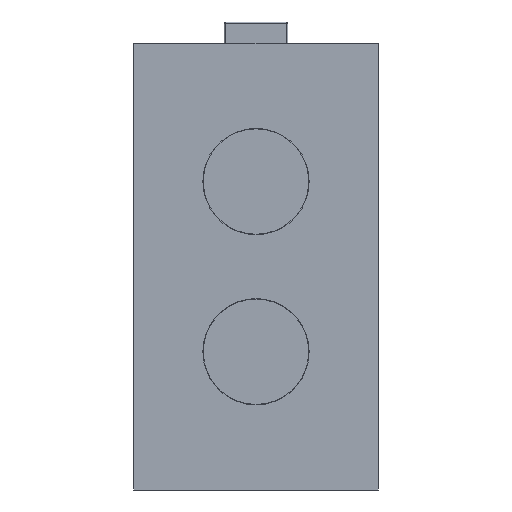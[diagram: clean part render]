
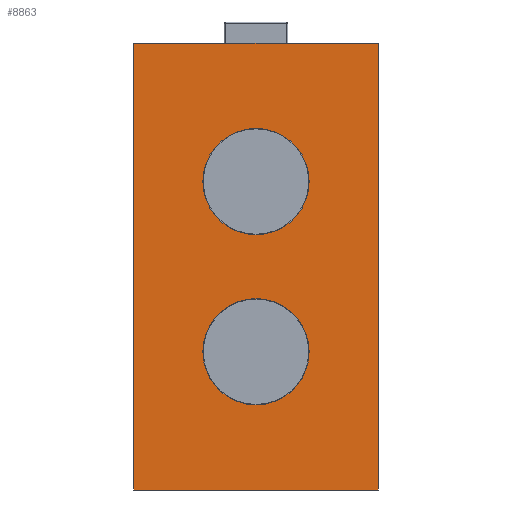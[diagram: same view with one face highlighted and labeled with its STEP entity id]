
A CAD part, front view. The second image highlights one B-rep face of the part: STEP entity #8863.
In plain terms, the highlighted planar face has unit normal (0, -1, 0).
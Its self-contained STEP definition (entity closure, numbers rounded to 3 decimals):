
#2432=DIRECTION('',(0.,0.,1.));
#2433=VECTOR('',#2432,210.);
#2434=CARTESIAN_POINT('',(-57.5,71.2,-145.));
#2435=LINE('',#2434,#2433);
#2436=DIRECTION('',(1.,0.,0.));
#2437=VECTOR('',#2436,115.);
#2438=CARTESIAN_POINT('',(-57.5,71.2,65.));
#2439=LINE('',#2438,#2437);
#2440=DIRECTION('',(0.,0.,-1.));
#2441=VECTOR('',#2440,210.);
#2442=CARTESIAN_POINT('',(57.5,71.2,65.));
#2443=LINE('',#2442,#2441);
#2444=DIRECTION('',(-1.,0.,0.));
#2445=VECTOR('',#2444,115.);
#2446=CARTESIAN_POINT('',(57.5,71.2,-145.));
#2447=LINE('',#2446,#2445);
#2448=CARTESIAN_POINT('',(0.,71.2,0.));
#2449=DIRECTION('',(0.,-1.,0.));
#2450=DIRECTION('',(0.,0.,1.));
#2451=AXIS2_PLACEMENT_3D('',#2448,#2449,#2450);
#2453=CARTESIAN_POINT('',(0.,71.2,0.));
#2454=DIRECTION('',(0.,-1.,0.));
#2455=DIRECTION('',(0.,0.,-1.));
#2456=AXIS2_PLACEMENT_3D('',#2453,#2454,#2455);
#2458=CARTESIAN_POINT('',(0.,71.2,-80.));
#2459=DIRECTION('',(0.,-1.,0.));
#2460=DIRECTION('',(0.,0.,1.));
#2461=AXIS2_PLACEMENT_3D('',#2458,#2459,#2460);
#2463=CARTESIAN_POINT('',(0.,71.2,-80.));
#2464=DIRECTION('',(0.,-1.,0.));
#2465=DIRECTION('',(0.,0.,-1.));
#2466=AXIS2_PLACEMENT_3D('',#2463,#2464,#2465);
#5955=CARTESIAN_POINT('',(-57.5,71.2,-145.));
#5956=CARTESIAN_POINT('',(-57.5,71.2,65.));
#5957=VERTEX_POINT('',#5955);
#5958=VERTEX_POINT('',#5956);
#5959=CARTESIAN_POINT('',(57.5,71.2,65.));
#5960=CARTESIAN_POINT('',(57.5,71.2,-145.));
#5961=VERTEX_POINT('',#5959);
#5962=VERTEX_POINT('',#5960);
#6461=CARTESIAN_POINT('',(0.,71.2,24.775));
#6462=CARTESIAN_POINT('',(0.,71.2,-24.775));
#6463=VERTEX_POINT('',#6461);
#6464=VERTEX_POINT('',#6462);
#6469=CARTESIAN_POINT('',(0.,71.2,-55.225));
#6470=CARTESIAN_POINT('',(0.,71.2,-104.775));
#6471=VERTEX_POINT('',#6469);
#6472=VERTEX_POINT('',#6470);
#8838=CARTESIAN_POINT('',(0.,71.2,-40.));
#8839=DIRECTION('',(0.,1.,0.));
#8840=DIRECTION('',(1.,0.,0.));
#8841=AXIS2_PLACEMENT_3D('',#8838,#8839,#8840);
#8842=PLANE('',#8841);
#8843=ORIENTED_EDGE('',*,*,#8829,.T.);
#8845=ORIENTED_EDGE('',*,*,#8844,.T.);
#8847=ORIENTED_EDGE('',*,*,#8846,.T.);
#8848=ORIENTED_EDGE('',*,*,#8817,.T.);
#8849=EDGE_LOOP('',(#8843,#8845,#8847,#8848));
#8850=FACE_OUTER_BOUND('',#8849,.F.);
#8852=ORIENTED_EDGE('',*,*,#8851,.T.);
#8854=ORIENTED_EDGE('',*,*,#8853,.T.);
#8855=EDGE_LOOP('',(#8852,#8854));
#8856=FACE_BOUND('',#8855,.F.);
#8858=ORIENTED_EDGE('',*,*,#8857,.T.);
#8860=ORIENTED_EDGE('',*,*,#8859,.T.);
#8861=EDGE_LOOP('',(#8858,#8860));
#8862=FACE_BOUND('',#8861,.F.);
#8863=ADVANCED_FACE('',(#8850,#8856,#8862),#8842,.F.);
#2452=CIRCLE('',#2451,24.775);
#2457=CIRCLE('',#2456,24.775);
#2462=CIRCLE('',#2461,24.775);
#2467=CIRCLE('',#2466,24.775);
#8817=EDGE_CURVE('',#5962,#5957,#2447,.T.);
#8829=EDGE_CURVE('',#5957,#5958,#2435,.T.);
#8844=EDGE_CURVE('',#5958,#5961,#2439,.T.);
#8846=EDGE_CURVE('',#5961,#5962,#2443,.T.);
#8851=EDGE_CURVE('',#6463,#6464,#2452,.T.);
#8853=EDGE_CURVE('',#6464,#6463,#2457,.T.);
#8857=EDGE_CURVE('',#6471,#6472,#2462,.T.);
#8859=EDGE_CURVE('',#6472,#6471,#2467,.T.);
